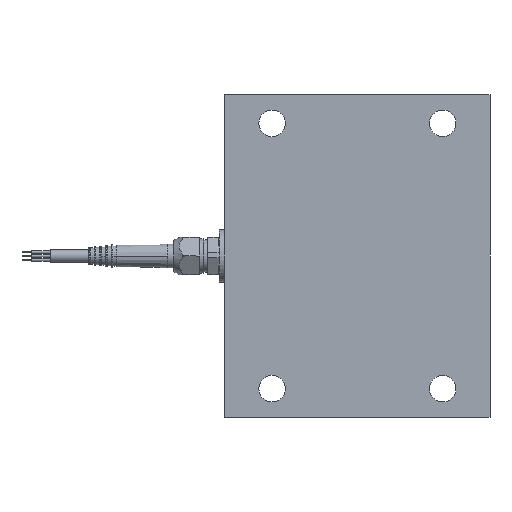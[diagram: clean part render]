
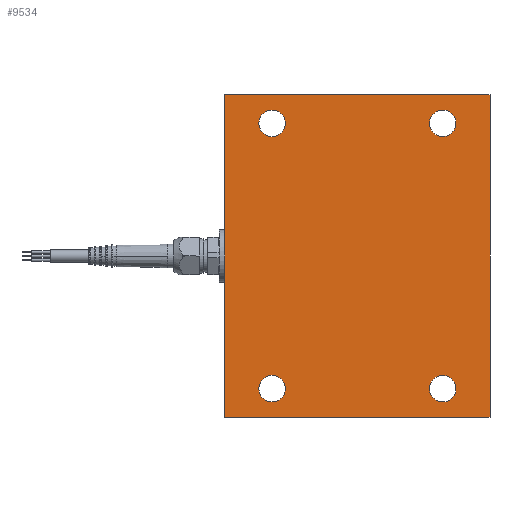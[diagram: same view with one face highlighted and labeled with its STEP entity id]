
A CAD part, front view. The second image highlights one B-rep face of the part: STEP entity #9534.
In plain terms, the highlighted planar face has unit normal (0, -1, 0).
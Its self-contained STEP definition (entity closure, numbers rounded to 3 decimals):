
#94 = ORIENTED_EDGE ( 'NONE', *, *, #4133, .T. ) ;
#136 = VECTOR ( 'NONE', #617, 1000. ) ;
#383 = DIRECTION ( 'NONE',  ( 0., -1., 0. ) ) ;
#429 = LINE ( 'NONE', #8167, #4729 ) ;
#617 = DIRECTION ( 'NONE',  ( 0., 0., -1. ) ) ;
#1178 = ORIENTED_EDGE ( 'NONE', *, *, #9786, .F. ) ;
#1312 = VECTOR ( 'NONE', #4100, 1000. ) ;
#1356 = AXIS2_PLACEMENT_3D ( 'NONE', #12406, #11603, #9444 ) ;
#1461 = CARTESIAN_POINT ( 'NONE',  ( 45., 0., 70. ) ) ;
#1755 = CARTESIAN_POINT ( 'NONE',  ( 45., 0., -70. ) ) ;
#1798 = FACE_BOUND ( 'NONE', #10891, .T. ) ;
#1854 = AXIS2_PLACEMENT_3D ( 'NONE', #10955, #6185, #9351 ) ;
#2078 = LINE ( 'NONE', #5907, #10495 ) ;
#2120 = AXIS2_PLACEMENT_3D ( 'NONE', #1461, #383, #5294 ) ;
#2241 = DIRECTION ( 'NONE',  ( 0., 0., 1. ) ) ;
#2297 = CIRCLE ( 'NONE', #4318, 7. ) ;
#2485 = CARTESIAN_POINT ( 'NONE',  ( 45., 0., 70. ) ) ;
#2523 = DIRECTION ( 'NONE',  ( 0., -1., 0. ) ) ;
#2592 = EDGE_CURVE ( 'NONE', #7328, #11400, #2078, .T. ) ;
#2699 = ORIENTED_EDGE ( 'NONE', *, *, #10885, .F. ) ;
#2813 = CARTESIAN_POINT ( 'NONE',  ( 0., 0., 0. ) ) ;
#2819 = EDGE_CURVE ( 'NONE', #11400, #9229, #7218, .T. ) ;
#2841 = EDGE_LOOP ( 'NONE', ( #2699, #4814 ) ) ;
#2931 = ORIENTED_EDGE ( 'NONE', *, *, #8185, .T. ) ;
#2980 = EDGE_CURVE ( 'NONE', #6351, #5099, #8545, .T. ) ;
#3165 = CIRCLE ( 'NONE', #1356, 7. ) ;
#3496 = DIRECTION ( 'NONE',  ( 0., 0., 1. ) ) ;
#3595 = CARTESIAN_POINT ( 'NONE',  ( -45., 0., -70. ) ) ;
#3619 = ORIENTED_EDGE ( 'NONE', *, *, #10467, .F. ) ;
#3644 = EDGE_CURVE ( 'NONE', #5996, #12251, #8449, .T. ) ;
#3698 = CARTESIAN_POINT ( 'NONE',  ( 45., 0., -77. ) ) ;
#3748 = CIRCLE ( 'NONE', #5333, 7. ) ;
#3982 = ORIENTED_EDGE ( 'NONE', *, *, #2819, .F. ) ;
#4086 = CARTESIAN_POINT ( 'NONE',  ( -45., 0., -63. ) ) ;
#4100 = DIRECTION ( 'NONE',  ( 0., 0., 1. ) ) ;
#4103 = CARTESIAN_POINT ( 'NONE',  ( -45., 0., 70. ) ) ;
#4133 = EDGE_CURVE ( 'NONE', #9484, #9687, #11690, .T. ) ;
#4286 = DIRECTION ( 'NONE',  ( -1., 0., 0. ) ) ;
#4318 = AXIS2_PLACEMENT_3D ( 'NONE', #2485, #8249, #3496 ) ;
#4577 = PLANE ( 'NONE',  #6706 ) ;
#4612 = CARTESIAN_POINT ( 'NONE',  ( 45., 0., 77. ) ) ;
#4729 = VECTOR ( 'NONE', #4286, 1000. ) ;
#4776 = DIRECTION ( 'NONE',  ( 0., 0., -1. ) ) ;
#4814 = ORIENTED_EDGE ( 'NONE', *, *, #3644, .F. ) ;
#4817 = FACE_OUTER_BOUND ( 'NONE', #10715, .T. ) ;
#4833 = CARTESIAN_POINT ( 'NONE',  ( 70., 0., -85. ) ) ;
#4941 = CIRCLE ( 'NONE', #2120, 7. ) ;
#4952 = LINE ( 'NONE', #8768, #1312 ) ;
#5099 = VERTEX_POINT ( 'NONE', #8494 ) ;
#5284 = ORIENTED_EDGE ( 'NONE', *, *, #2980, .T. ) ;
#5294 = DIRECTION ( 'NONE',  ( 0., 0., 1. ) ) ;
#5333 = AXIS2_PLACEMENT_3D ( 'NONE', #12151, #10190, #9060 ) ;
#5416 = CARTESIAN_POINT ( 'NONE',  ( 45., 0., 63. ) ) ;
#5907 = CARTESIAN_POINT ( 'NONE',  ( -70., 0., 85. ) ) ;
#5996 = VERTEX_POINT ( 'NONE', #7722 ) ;
#6145 = DIRECTION ( 'NONE',  ( 0., 1., 0. ) ) ;
#6150 = AXIS2_PLACEMENT_3D ( 'NONE', #1755, #9460, #4776 ) ;
#6185 = DIRECTION ( 'NONE',  ( 0., 1., 0. ) ) ;
#6195 = CARTESIAN_POINT ( 'NONE',  ( 45., 0., -63. ) ) ;
#6351 = VERTEX_POINT ( 'NONE', #10044 ) ;
#6706 = AXIS2_PLACEMENT_3D ( 'NONE', #2813, #8627, #8388 ) ;
#7116 = EDGE_CURVE ( 'NONE', #7604, #7328, #4952, .T. ) ;
#7218 = LINE ( 'NONE', #11112, #136 ) ;
#7328 = VERTEX_POINT ( 'NONE', #8567 ) ;
#7604 = VERTEX_POINT ( 'NONE', #10382 ) ;
#7650 = FACE_BOUND ( 'NONE', #9137, .T. ) ;
#7722 = CARTESIAN_POINT ( 'NONE',  ( -45., 0., -77. ) ) ;
#7820 = EDGE_CURVE ( 'NONE', #9687, #9484, #11570, .T. ) ;
#7865 = ORIENTED_EDGE ( 'NONE', *, *, #7116, .F. ) ;
#8010 = EDGE_LOOP ( 'NONE', ( #9889, #1178 ) ) ;
#8167 = CARTESIAN_POINT ( 'NONE',  ( -70., 0., -85. ) ) ;
#8185 = EDGE_CURVE ( 'NONE', #5099, #6351, #3165, .T. ) ;
#8249 = DIRECTION ( 'NONE',  ( 0., -1., 0. ) ) ;
#8359 = AXIS2_PLACEMENT_3D ( 'NONE', #4103, #6145, #2241 ) ;
#8388 = DIRECTION ( 'NONE',  ( 0., 0., -1. ) ) ;
#8449 = CIRCLE ( 'NONE', #10470, 7. ) ;
#8494 = CARTESIAN_POINT ( 'NONE',  ( -45., 0., 77. ) ) ;
#8545 = CIRCLE ( 'NONE', #8359, 7. ) ;
#8567 = CARTESIAN_POINT ( 'NONE',  ( -70., 0., 85. ) ) ;
#8627 = DIRECTION ( 'NONE',  ( 0., -1., 0. ) ) ;
#8661 = CARTESIAN_POINT ( 'NONE',  ( 70., 0., 85. ) ) ;
#8768 = CARTESIAN_POINT ( 'NONE',  ( -70., 0., 85. ) ) ;
#8787 = VERTEX_POINT ( 'NONE', #4612 ) ;
#8788 = DIRECTION ( 'NONE',  ( 1., 0., 0. ) ) ;
#8809 = ORIENTED_EDGE ( 'NONE', *, *, #2592, .F. ) ;
#9060 = DIRECTION ( 'NONE',  ( 0., 0., -1. ) ) ;
#9137 = EDGE_LOOP ( 'NONE', ( #9285, #94 ) ) ;
#9229 = VERTEX_POINT ( 'NONE', #4833 ) ;
#9285 = ORIENTED_EDGE ( 'NONE', *, *, #7820, .T. ) ;
#9346 = DIRECTION ( 'NONE',  ( 0., 0., -1. ) ) ;
#9351 = DIRECTION ( 'NONE',  ( 0., 0., -1. ) ) ;
#9442 = FACE_BOUND ( 'NONE', #8010, .T. ) ;
#9444 = DIRECTION ( 'NONE',  ( 0., 0., 1. ) ) ;
#9460 = DIRECTION ( 'NONE',  ( 0., 1., 0. ) ) ;
#9484 = VERTEX_POINT ( 'NONE', #3698 ) ;
#9534 = ADVANCED_FACE ( 'NONE', ( #9580, #1798, #4817, #7650, #9442 ), #4577, .T. ) ;
#9580 = FACE_BOUND ( 'NONE', #2841, .T. ) ;
#9687 = VERTEX_POINT ( 'NONE', #6195 ) ;
#9786 = EDGE_CURVE ( 'NONE', #10108, #8787, #2297, .T. ) ;
#9889 = ORIENTED_EDGE ( 'NONE', *, *, #11229, .F. ) ;
#10044 = CARTESIAN_POINT ( 'NONE',  ( -45., 0., 63. ) ) ;
#10108 = VERTEX_POINT ( 'NONE', #5416 ) ;
#10190 = DIRECTION ( 'NONE',  ( 0., -1., 0. ) ) ;
#10382 = CARTESIAN_POINT ( 'NONE',  ( -70., 0., -85. ) ) ;
#10467 = EDGE_CURVE ( 'NONE', #9229, #7604, #429, .T. ) ;
#10470 = AXIS2_PLACEMENT_3D ( 'NONE', #3595, #2523, #9346 ) ;
#10495 = VECTOR ( 'NONE', #8788, 1000. ) ;
#10715 = EDGE_LOOP ( 'NONE', ( #7865, #3619, #3982, #8809 ) ) ;
#10885 = EDGE_CURVE ( 'NONE', #12251, #5996, #3748, .T. ) ;
#10891 = EDGE_LOOP ( 'NONE', ( #2931, #5284 ) ) ;
#10955 = CARTESIAN_POINT ( 'NONE',  ( 45., 0., -70. ) ) ;
#11112 = CARTESIAN_POINT ( 'NONE',  ( 70., 0., 85. ) ) ;
#11229 = EDGE_CURVE ( 'NONE', #8787, #10108, #4941, .T. ) ;
#11400 = VERTEX_POINT ( 'NONE', #8661 ) ;
#11570 = CIRCLE ( 'NONE', #6150, 7. ) ;
#11603 = DIRECTION ( 'NONE',  ( 0., 1., 0. ) ) ;
#11690 = CIRCLE ( 'NONE', #1854, 7. ) ;
#12151 = CARTESIAN_POINT ( 'NONE',  ( -45., 0., -70. ) ) ;
#12251 = VERTEX_POINT ( 'NONE', #4086 ) ;
#12406 = CARTESIAN_POINT ( 'NONE',  ( -45., 0., 70. ) ) ;
